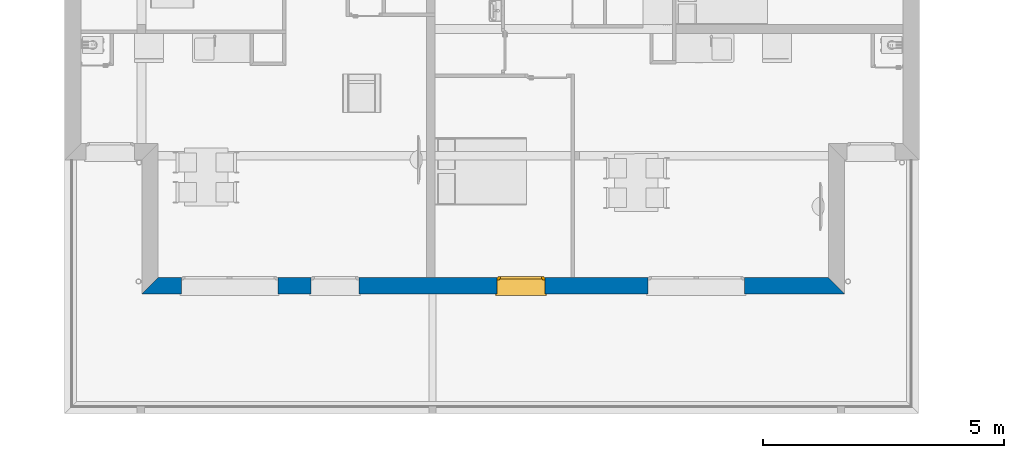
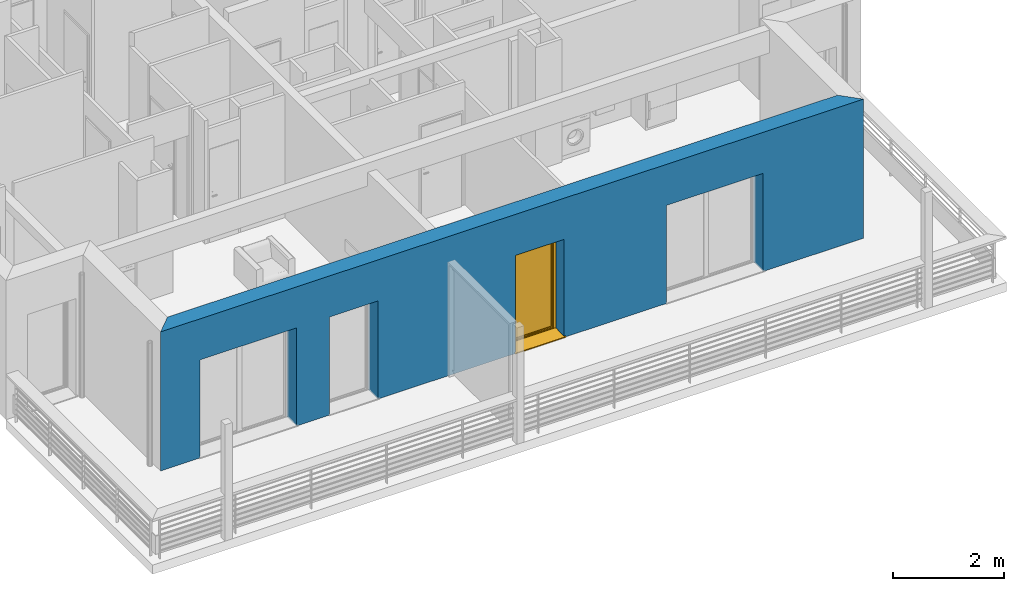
# One storey, part 5 of 165: 1 wall, 1 window, 4 openings.
"""IFC2X3 building model written with IfcOpenShell, lengths in millimetres."""

import ifcopenshell
import ifcopenshell.guid

model = None  # the IFC model being written
_history = None  # IfcOwnerHistory: only IFC2X3 demands one
_inside = {}  # id of a spatial element -> (the spatial element, [elements in it])
_under = {}  # id of a project, library or spatial element -> (it, [spatial elements below it])
_declared = {}  # id of a project -> (the project, [libraries it declares])
_typed = {}  # id of a type object -> (the type object, [elements of that type])
_made_of = {}  # id of a material, layer set ... -> (it, [elements and type objects made of it])


def new_model(schema):
    """Start an empty IFC model of exactly this schema.

    Asked for "IFC4X3", IfcOpenShell would pick the latest addendum, in which some entities
    have other attributes; the version numbers below select the first issue.
    IFC2X3 requires an IfcOwnerHistory on every rooted entity: one is made here for all.
    """
    global model, _history
    if schema == "IFC4X3":
        model = ifcopenshell.file(schema_version=(4, 3, 0, 0))
    else:
        model = ifcopenshell.file(schema=schema)
    _inside.clear()
    _under.clear()
    _declared.clear()
    _typed.clear()
    _made_of.clear()
    _history = None
    if model.schema == "IFC2X3":
        org = make("IfcOrganization", Name="unknown")
        user = make(
            "IfcPersonAndOrganization",
            ThePerson=make("IfcPerson", FamilyName="unknown"),
            TheOrganization=org,
        )
        app = make(
            "IfcApplication",
            ApplicationDeveloper=org,
            Version="unknown",
            ApplicationFullName="unknown",
            ApplicationIdentifier="unknown",
        )
        _history = make(
            "IfcOwnerHistory",
            OwningUser=user,
            OwningApplication=app,
            ChangeAction="ADDED",
            CreationDate=0,
        )
    return model


def make(cls, **values):
    """One entity of the class cls with the attributes given. An attribute that is None is left unset."""
    return model.create_entity(
        cls, **{name: value for name, value in values.items() if value is not None}
    )


def entity(cls, *values):
    """Any entity or typed value of the class cls, its attributes in the order of the schema. None: left unset."""
    e = model.create_entity(cls)
    for i, value in enumerate(values):
        if value is not None:
            e[i] = value
    return e


def rooted(cls, **values):
    """An entity with a GlobalId (a new one), such as an element, a storey or a relation."""
    return make(cls, GlobalId=ifcopenshell.guid.new(), OwnerHistory=_history, **values)


def si_unit(unit_type, name, prefix=None):
    """IfcSIUnit, for example si_unit("LENGTHUNIT", "METRE", prefix="MILLI")."""
    return make("IfcSIUnit", UnitType=unit_type, Prefix=prefix, Name=name)


def converted_unit(unit_type, name, factor, base, dimensions=None, offset=None):
    """IfcConversionBasedUnit, such as the inch: factor (a typed value) times the base unit."""
    return make(
        "IfcConversionBasedUnit"
        if offset is None
        else "IfcConversionBasedUnitWithOffset",
        ConversionOffset=offset,
        Dimensions=None
        if dimensions is None
        else entity("IfcDimensionalExponents", *dimensions),
        UnitType=unit_type,
        Name=name,
        ConversionFactor=make(
            "IfcMeasureWithUnit", ValueComponent=factor, UnitComponent=base
        ),
    )


def derived_unit(unit_type, elements):
    """IfcDerivedUnit: a product of units, each with its exponent."""
    return make(
        "IfcDerivedUnit",
        Elements=[
            make("IfcDerivedUnitElement", Unit=unit, Exponent=power)
            for unit, power in elements
        ],
        UnitType=unit_type,
    )


def money_unit(currency):
    """IfcMonetaryUnit."""
    return make("IfcMonetaryUnit", Currency=currency)


def assignment(units):
    """IfcUnitAssignment: the units of a project."""
    return None if units is None else make("IfcUnitAssignment", Units=units)


def point(xyz):
    """IfcCartesianPoint."""
    return None if xyz is None else make("IfcCartesianPoint", Coordinates=xyz)


def direction(xyz):
    """IfcDirection."""
    return None if xyz is None else make("IfcDirection", DirectionRatios=xyz)


def frame(location, z_axis=None, x_axis=None):
    """IfcAxis2Placement3D, a coordinate frame: its origin and axes. An axis left out is left unset."""
    return make(
        "IfcAxis2Placement3D",
        Location=point(location),
        Axis=direction(z_axis),
        RefDirection=direction(x_axis),
    )


def origin_with_axes():
    """The frame at (0, 0, 0) with the z axis (0, 0, 1) and the x axis (1, 0, 0) written out."""
    return frame((0.0, 0.0, 0.0), z_axis=(0.0, 0.0, 1.0), x_axis=(1.0, 0.0, 0.0))


def place(relative_to, where):
    """IfcLocalPlacement: puts the frame where relative to a parent placement (None: the world)."""
    return make(
        "IfcLocalPlacement", PlacementRelTo=relative_to, RelativePlacement=where
    )


def context(
    kind, dimensions, precision=None, world=None, true_north=None, identifier=None
):
    """IfcGeometricRepresentationContext, for example the 3D "Model" context."""
    return make(
        "IfcGeometricRepresentationContext",
        ContextIdentifier=identifier,
        ContextType=kind,
        CoordinateSpaceDimension=dimensions,
        Precision=precision,
        WorldCoordinateSystem=world,
        TrueNorth=true_north,
    )


def subcontext(parent, identifier, kind, view, scale=None):
    """IfcGeometricRepresentationSubContext, for example "Body" below "Model"."""
    return make(
        "IfcGeometricRepresentationSubContext",
        ContextIdentifier=identifier,
        ContextType=kind,
        ParentContext=parent,
        TargetScale=scale,
        TargetView=view,
    )


def project(units=None, contexts=None):
    """IfcProject with its units and contexts."""
    return rooted(
        "IfcProject",
        Name="project",
        RepresentationContexts=contexts,
        UnitsInContext=assignment(units),
    )


def spatial(cls, under=None, at=None, **own):
    """A site, building, storey or space (cls), placed at a placement, below another one or the project."""
    s = rooted(cls, ObjectPlacement=at, **own)
    if under is not None:
        _under.setdefault(under.id(), (under, []))[1].append(s)
    return s


def polyline(points):
    """IfcPolyline through the points."""
    return make("IfcPolyline", Points=[point(p) for p in points])


def outline(outer, holes=None, kind="AREA"):
    """IfcArbitraryClosedProfileDef: a profile drawn as a closed curve; with holes, ...WithVoids."""
    if holes is None:
        return make("IfcArbitraryClosedProfileDef", ProfileType=kind, OuterCurve=outer)
    return make(
        "IfcArbitraryProfileDefWithVoids",
        ProfileType=kind,
        OuterCurve=outer,
        InnerCurves=holes,
    )


def extrude(swept, where, along, depth):
    """IfcExtrudedAreaSolid: the profile swept, set in the frame where, extruded along a direction by depth."""
    return make(
        "IfcExtrudedAreaSolid",
        SweptArea=swept,
        Position=where,
        ExtrudedDirection=direction(along),
        Depth=depth,
    )


def faces_of(points, faces, orient=None, outer=None):
    """IfcFace entities. A face is a list of loops; a loop is a list of indices into points, from 0.

    orient and outer hold one flag for each loop. By default every Orientation is true, the
    first loop of a face is its IfcFaceOuterBound and the others are IfcFaceBound.
    """
    made = []
    for i, loops in enumerate(faces):
        bounds = []
        for j, loop in enumerate(loops):
            is_outer = j == 0 if outer is None else outer[i][j]
            bounds.append(
                make(
                    "IfcFaceOuterBound" if is_outer else "IfcFaceBound",
                    Bound=make("IfcPolyLoop", Polygon=[points[k] for k in loop]),
                    Orientation=True if orient is None else orient[i][j],
                )
            )
        made.append(make("IfcFace", Bounds=bounds))
    return made


def open_shell(faces, orient=None, outer=None):
    """The faces of one IfcOpenShell. surface_model builds it on its shared points."""
    return ("IfcOpenShell", faces, orient, outer)


def faceted_brep(points, faces, orient=None, outer=None, voids=None):
    """IfcFacetedBrep: a solid bounded by flat faces; with voids (closed shells), ...WithVoids."""
    shared = [point(p) for p in points]
    hull = make("IfcClosedShell", CfsFaces=faces_of(shared, faces, orient, outer))
    if voids is None:
        return make("IfcFacetedBrep", Outer=hull)
    return make(
        "IfcFacetedBrepWithVoids",
        Outer=hull,
        Voids=[
            make(cls, CfsFaces=faces_of(shared, fs, o, b)) for cls, fs, o, b in voids
        ],
    )


def surface_model(cls, points, shells):
    """IfcFaceBasedSurfaceModel or IfcShellBasedSurfaceModel (cls): surfaces that need not close."""
    shared = [point(p) for p in points]
    made = [make(c, CfsFaces=faces_of(shared, fs, o, b)) for c, fs, o, b in shells]
    if cls == "IfcFaceBasedSurfaceModel":
        return make(cls, FbsmFaces=made)
    return make(cls, SbsmBoundary=made)


def shape(context_of_items, identifier, shape_type, items):
    """IfcShapeRepresentation: the items that make up one representation, for example the "Body"."""
    return make(
        "IfcShapeRepresentation",
        ContextOfItems=context_of_items,
        RepresentationIdentifier=identifier,
        RepresentationType=shape_type,
        Items=items,
    )


def source(mapping_origin, context_of_items, identifier, shape_type, items):
    """IfcRepresentationMap: a shape defined once, which mapped items show again and again."""
    return make(
        "IfcRepresentationMap",
        MappingOrigin=mapping_origin,
        MappedRepresentation=shape(context_of_items, identifier, shape_type, items),
    )


def transform(
    local_origin,
    x_axis=None,
    y_axis=None,
    z_axis=None,
    scale=None,
    scale2=None,
    scale3=None,
    uniform=True,
):
    """IfcCartesianTransformationOperator3D, or its non-uniform kind. x_axis, y_axis, z_axis: its Axis1, 2, 3."""
    if uniform:
        return make(
            "IfcCartesianTransformationOperator3D",
            Axis1=direction(x_axis),
            Axis2=direction(y_axis),
            LocalOrigin=point(local_origin),
            Scale=scale,
            Axis3=direction(z_axis),
        )
    return make(
        "IfcCartesianTransformationOperator3DnonUniform",
        Axis1=direction(x_axis),
        Axis2=direction(y_axis),
        LocalOrigin=point(local_origin),
        Scale=scale,
        Axis3=direction(z_axis),
        Scale2=scale2,
        Scale3=scale3,
    )


def mapped(mapping_source, mapping_target):
    """IfcMappedItem: shows the shape of a source again, moved by a transform."""
    return make(
        "IfcMappedItem", MappingSource=mapping_source, MappingTarget=mapping_target
    )


def material(Name=None, Category=None):
    """IfcMaterial."""
    return make("IfcMaterial", Name=Name, Category=Category)


def layer(
    of_material, thickness, ventilated=None, Name=None, Category=None, Priority=None
):
    """IfcMaterialLayer: one layer of a wall or slab, of a material (None: an air gap)."""
    return make(
        "IfcMaterialLayer",
        Material=of_material,
        LayerThickness=thickness,
        IsVentilated=ventilated,
        Name=Name,
        Category=Category,
        Priority=Priority,
    )


def layer_set(layers, Name=None):
    """IfcMaterialLayerSet."""
    return make("IfcMaterialLayerSet", MaterialLayers=layers, LayerSetName=Name)


def layer_usage(for_layer_set, set_direction, sense, offset, extent=None):
    """IfcMaterialLayerSetUsage: how a layer set lies in its element."""
    return make(
        "IfcMaterialLayerSetUsage",
        ForLayerSet=for_layer_set,
        LayerSetDirection=set_direction,
        DirectionSense=sense,
        OffsetFromReferenceLine=offset,
        ReferenceExtent=extent,
    )


def made_of(thing, what):
    """Note that an element or type object is made of a material, layer set ...; save() writes the relation."""
    if what is not None:
        _made_of.setdefault(what.id(), (what, []))[1].append(thing)
    return thing


def type_object(cls, material=None, **own):
    """A type object (cls), such as IfcWallType, which elements share."""
    return made_of(rooted(cls, **own), material)


def element(
    cls,
    number,
    at=None,
    inside=None,
    cuts=None,
    type_object=None,
    material=None,
    context=None,
    identifier="Body",
    shape_type=None,
    held_by="IfcProductDefinitionShape",
    body=None,
    shapes=None,
    **own,
):
    """One element of the class cls, such as IfcWall. Its Tag is "e" and its number.

    at: its placement. inside: the storey or other place that contains it. cuts: it is an
    opening in that element (IfcRelVoidsElement). A single representation is given by context,
    identifier, shape_type and body (its items); several are given by shapes. held_by: the class
    of the entity that holds the representations. save() writes the other relations.
    """
    e = rooted(cls, Tag="e%d" % number, ObjectPlacement=at, **own)
    if body is not None:
        shapes = [shape(context, identifier, shape_type, body)]
    if shapes is not None:
        e.Representation = make(held_by, Representations=shapes)
    if inside is not None:
        _inside.setdefault(inside.id(), (inside, []))[1].append(e)
    if cuts is not None:
        rooted(
            "IfcRelVoidsElement", RelatingBuildingElement=cuts, RelatedOpeningElement=e
        )
    if type_object is not None:
        _typed.setdefault(type_object.id(), (type_object, []))[1].append(e)
    return made_of(e, material)


def fill(opening, filler):
    """IfcRelFillsElement: the door or window that sits in an opening."""
    return rooted(
        "IfcRelFillsElement",
        RelatingOpeningElement=opening,
        RelatedBuildingElement=filler,
    )


def aggregate(whole, parts):
    """IfcRelAggregates: a whole, such as a stair, and the parts it consists of."""
    return rooted("IfcRelAggregates", RelatingObject=whole, RelatedObjects=parts)


def save(model, path):
    """Write the relations noted so far, then the file.

    IfcRelAggregates (storeys below a building ...), IfcRelContainedInSpatialStructure (elements
    in a storey), IfcRelDefinesByType, IfcRelAssociatesMaterial and IfcRelDeclares: one each for
    every whole, place, type object, material and project.
    """
    for whole, parts in _under.values():
        aggregate(whole, parts)
    for where, things in _inside.values():
        rooted(
            "IfcRelContainedInSpatialStructure",
            RelatedElements=things,
            RelatingStructure=where,
        )
    for kind, things in _typed.values():
        rooted("IfcRelDefinesByType", RelatedObjects=things, RelatingType=kind)
    for what, things in _made_of.values():
        rooted("IfcRelAssociatesMaterial", RelatedObjects=things, RelatingMaterial=what)
    for by, libraries in _declared.values():
        rooted("IfcRelDeclares", RelatingContext=by, RelatedDefinitions=libraries)
    model.write(path)


model = new_model("IFC2X3")

# Units and contexts
model_context = context("Model", 3, precision=0.01, world=origin_with_axes(), true_north=direction((0.0, 1.0)))
body_context = subcontext(model_context, "Body", "Model", "MODEL_VIEW")
ifc_project = project(units=[si_unit("LENGTHUNIT", "METRE", prefix="MILLI"), si_unit("AREAUNIT", "SQUARE_METRE"), si_unit("VOLUMEUNIT", "CUBIC_METRE"), converted_unit("PLANEANGLEUNIT", "DEGREE", entity("IfcPlaneAngleMeasure", 0.0174532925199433), si_unit("PLANEANGLEUNIT", "RADIAN"), dimensions=[0, 0, 0, 0, 0, 0, 0]), money_unit("USD"), converted_unit("TIMEUNIT", "Year", entity("IfcTimeMeasure", 31557600.0), si_unit("TIMEUNIT", "SECOND"), dimensions=[0, 0, 1, 0, 0, 0, 0]), si_unit("MASSUNIT", "GRAM", prefix="KILO"), si_unit("THERMODYNAMICTEMPERATUREUNIT", "DEGREE_CELSIUS"), si_unit("LUMINOUSINTENSITYUNIT", "LUMEN"), si_unit("ENERGYUNIT", "JOULE", prefix="MEGA"), derived_unit("THERMALCONDUCTANCEUNIT", [(si_unit("POWERUNIT", "WATT"), 1), (si_unit("LENGTHUNIT", "METRE"), -1), (si_unit("THERMODYNAMICTEMPERATUREUNIT", "KELVIN"), -1)]), derived_unit("SPECIFICHEATCAPACITYUNIT", [(si_unit("ENERGYUNIT", "JOULE"), 1), (si_unit("MASSUNIT", "GRAM", prefix="KILO"), -1), (si_unit("THERMODYNAMICTEMPERATUREUNIT", "KELVIN"), -1)]), derived_unit("MASSDENSITYUNIT", [(si_unit("MASSUNIT", "GRAM", prefix="KILO"), 1), (si_unit("VOLUMEUNIT", "CUBIC_METRE"), -1)])], contexts=[model_context])

# Site, building, storey
site_placement = place(None, origin_with_axes())
site = spatial("IfcSite", under=ifc_project, at=site_placement, Name="Site", CompositionType="ELEMENT")
building_placement = place(site_placement, origin_with_axes())
building = spatial("IfcBuilding", under=site, at=building_placement, Name="Bâtiment", CompositionType="ELEMENT")
storey_placement = place(building_placement, frame((0.0, 0.0, 8500.0), z_axis=(0.0, 0.0, 1.0), x_axis=(1.0, 0.0, 0.0)))
storey = spatial("IfcBuildingStorey", under=building, at=storey_placement, Name="Etage 2", CompositionType="ELEMENT", Elevation=8500.0)

# Wall, openings, window
ifc_material_1 = material(Name="Parpaing 312445824")
ifc_layer_1 = layer(ifc_material_1, 180.0, ventilated="UNKNOWN")
ifc_material_2 = material(Name="Isolant styromousse 301821074")
ifc_layer_2 = layer(ifc_material_2, 160.0, ventilated="UNKNOWN")
ifc_layer_set = layer_set([ifc_layer_1, ifc_layer_2], Name="isol int 18+16 0018356637")
ifc_layer_usage = layer_usage(ifc_layer_set, "AXIS2", "POSITIVE", 0.0)
wall_type = type_object("IfcWallType", Name="isol int 18+16 0018356637 340", PredefinedType="NOTDEFINED")
wall_placement = place(storey_placement, frame((2218234.233338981, -657818.3230769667, 0.0), z_axis=(0.0, 0.0, 1.0), x_axis=(1.0, 0.0, 0.0)))
wall = element("IfcWallStandardCase", 1, at=wall_placement, inside=storey, type_object=wall_type, material=ifc_layer_usage, Name="Mur-142", context=body_context, shape_type="SweptSolid", body=[
    extrude(outline(polyline([(-1.13686837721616e-10, 0.0), (14572.4247596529, 0.0), (14232.42475965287, 340.0000000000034), (339.9999999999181, 340.0000000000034), (-1.13686837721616e-10, 0.0)])), origin_with_axes(), (0.0, 0.0, 1.0), 3050.0),
])
opening_1_placement = place(wall_placement, frame((11494.55984898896, 0.0, 0.0), z_axis=(0.0, 0.0, 1.0), x_axis=(1.0, 0.0, 0.0)))
element("IfcOpeningElement", 2, at=opening_1_placement, cuts=wall, Name="Fen-207", context=body_context, shape_type="Brep", body=[
    faceted_brep([(-1000.0, 341.0000000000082, 2150.0), (1000.0, 341.0000000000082, 2150.0), (1000.0, 341.0000000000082, 0.0), (-1000.0, 341.0000000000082, 0.0), (-1000.0, 530.0000000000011, 2150.0), (1000.0, 530.0000000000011, 2150.0), (1000.0, 290.0000000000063, 2150.0), (1000.0, 290.0000000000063, 0.0), (1000.0, -1.000000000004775, 0.0), (-1000.0, -1.000000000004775, 0.0), (-1000.0, 290.0000000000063, 0.0), (-1000.0, 290.0000000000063, 2150.0), (-1000.0, 280.0000000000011, 2150.0), (-1000.0, 280.0000000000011, 2400.0), (-1000.0, 530.0000000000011, 2400.0), (1000.0, 530.0000000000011, 2400.0), (1000.0, 280.0000000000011, 2400.0), (1000.0, 280.0000000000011, 2150.0), (1000.0, -1.000000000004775, 2150.0), (-1000.0, -1.000000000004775, 2150.0)], [[[0, 1, 2, 3]], [[1, 0, 4, 5]], [[1, 6, 7, 2]], [[7, 8, 9, 10, 3, 2]], [[11, 0, 3, 10]], [[0, 11, 12, 13, 14, 4]], [[15, 5, 4, 14]], [[6, 1, 5, 15, 16, 17]], [[6, 17, 18, 8, 7]], [[19, 9, 8, 18]], [[12, 11, 10, 9, 19]], [[12, 17, 16, 13]], [[16, 15, 14, 13]], [[17, 12, 19, 18]]]),
])
opening_2_placement = place(wall_placement, frame((1819.125619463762, 0.0, 0.0), z_axis=(0.0, 0.0, 1.0), x_axis=(1.0, 0.0, 0.0)))
element("IfcOpeningElement", 3, at=opening_2_placement, cuts=wall, Name="Fen-207", context=body_context, shape_type="Brep", body=[
    faceted_brep([(-1000.0, 341.0000000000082, 2149.999999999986), (1000.0, 341.0000000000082, 2149.999999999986), (1000.0, 341.0000000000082, 0.0), (-1000.0, 341.0000000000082, 0.0), (-1000.0, 530.0000000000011, 2149.999999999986), (1000.0, 530.0000000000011, 2149.999999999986), (1000.0, 290.0000000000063, 2149.999999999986), (1000.0, 290.0000000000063, 0.0), (1000.0, -1.000000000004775, 0.0), (-1000.0, -1.000000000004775, 0.0), (-1000.0, 290.0000000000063, 0.0), (-1000.0, 290.0000000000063, 2149.999999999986), (-1000.0, 280.0000000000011, 2149.999999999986), (-1000.0, 280.0000000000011, 2399.999999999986), (-1000.0, 530.0000000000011, 2399.999999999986), (1000.0, 530.0000000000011, 2399.999999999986), (1000.0, 280.0000000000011, 2399.999999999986), (1000.0, 280.0000000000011, 2149.999999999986), (1000.0, -1.000000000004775, 2149.999999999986), (-1000.0, -1.000000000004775, 2149.999999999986)], [[[0, 1, 2, 3]], [[1, 0, 4, 5]], [[1, 6, 7, 2]], [[7, 8, 9, 10, 3, 2]], [[11, 0, 3, 10]], [[0, 11, 12, 13, 14, 4]], [[4, 14, 15, 5]], [[6, 1, 5, 15, 16, 17]], [[6, 17, 18, 8, 7]], [[19, 9, 8, 18]], [[12, 11, 10, 9, 19]], [[12, 17, 16, 13]], [[14, 13, 16, 15]], [[17, 12, 19, 18]]]),
])
opening_3_placement = place(wall_placement, frame((7861.100702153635, 0.0, 0.0), z_axis=(0.0, 0.0, 1.0), x_axis=(1.0, 0.0, 0.0)))
opening_3 = element("IfcOpeningElement", 4, at=opening_3_placement, cuts=wall, Name="Fen-207", context=body_context, shape_type="Brep", body=[
    faceted_brep([(-500.0, 341.0000000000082, 2150.0), (500.0, 341.0000000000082, 2150.0), (500.0, 341.0000000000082, 0.0), (-500.0, 341.0000000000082, 0.0), (-500.0, 530.0000000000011, 2150.0), (500.0, 530.0000000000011, 2150.0), (500.0, 290.0000000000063, 2150.0), (500.0, 290.0000000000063, 0.0), (500.0, -1.000000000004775, 0.0), (-500.0, -1.000000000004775, 0.0), (-500.0, 290.0000000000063, 0.0), (-500.0, 290.0000000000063, 2150.0), (-500.0, 280.0000000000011, 2150.0), (-500.0, 280.0000000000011, 2400.0), (-500.0, 530.0000000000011, 2400.0), (500.0, 530.0000000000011, 2400.0), (500.0, 280.0000000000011, 2400.0), (500.0, 280.0000000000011, 2150.0), (500.0, -1.000000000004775, 2150.0), (-500.0, -1.000000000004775, 2150.0)], [[[0, 1, 2, 3]], [[1, 0, 4, 5]], [[1, 6, 7, 2]], [[7, 8, 9, 10, 3, 2]], [[11, 0, 3, 10]], [[0, 11, 12, 13, 14, 4]], [[4, 14, 15, 5]], [[6, 1, 5, 15, 16, 17]], [[6, 17, 18, 8, 7]], [[19, 9, 8, 18]], [[12, 11, 10, 9, 19]], [[12, 17, 16, 13]], [[14, 13, 16, 15]], [[17, 12, 19, 18]]]),
])
opening_4_placement = place(wall_placement, frame((4005.859536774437, 0.0, 0.0), z_axis=(0.0, 0.0, 1.0), x_axis=(1.0, 0.0, 0.0)))
element("IfcOpeningElement", 5, at=opening_4_placement, cuts=wall, Name="Fen-208", context=body_context, shape_type="Brep", body=[
    faceted_brep([(-500.0, 341.0000000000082, 2150.000000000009), (500.0, 341.0000000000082, 2150.000000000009), (500.0, 341.0000000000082, 0.0), (-500.0, 341.0000000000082, 0.0), (-500.0, 530.0000000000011, 2150.000000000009), (500.0, 530.0000000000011, 2150.000000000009), (500.0, 290.0000000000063, 2150.000000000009), (500.0, 290.0000000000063, 0.0), (500.0, -1.000000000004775, 0.0), (-500.0, -1.000000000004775, 0.0), (-500.0, 290.0000000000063, 0.0), (-500.0, 290.0000000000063, 2150.000000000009), (-500.0, 280.0000000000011, 2150.000000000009), (-500.0, 280.0000000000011, 2400.000000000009), (-500.0, 530.0000000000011, 2400.000000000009), (500.0, 530.0000000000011, 2400.000000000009), (500.0, 280.0000000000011, 2400.000000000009), (500.0, 280.0000000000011, 2150.000000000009), (500.0, -1.000000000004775, 2150.000000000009), (-500.0, -1.000000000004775, 2150.000000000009)], [[[0, 1, 2, 3]], [[1, 0, 4, 5]], [[1, 6, 7, 2]], [[7, 8, 9, 10, 3, 2]], [[11, 0, 3, 10]], [[0, 11, 12, 13, 14, 4]], [[4, 14, 15, 5]], [[6, 1, 5, 15, 16, 17]], [[6, 17, 18, 8, 7]], [[19, 9, 8, 18]], [[12, 11, 10, 9, 19]], [[12, 17, 16, 13]], [[14, 13, 16, 15]], [[17, 12, 19, 18]]]),
])
window_style = type_object("IfcWindowStyle", Name="Fenêtre 27", ConstructionType="NOTDEFINED", OperationType="SINGLE_PANEL", ParameterTakesPrecedence=False, Sizeable=False)
shared_shape = source(origin_with_axes(), body_context, "Body", "SurfaceModel", [
    surface_model("IfcShellBasedSurfaceModel", [(-500.0, -51.00000000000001, 40.00000000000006), (500.0, -51.00000000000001, 40.0), (500.0, -51.00000000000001, 50.0), (-500.0, -51.00000000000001, 50.00000000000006), (-530.0, -369.9999999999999, 28.96551724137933), (530.0, -369.9999999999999, 28.96551724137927), (530.0, -339.9999999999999, 30.00324289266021), (500.0, -339.9999999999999, 30.00324289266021), (-500.0, -339.9999999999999, 30.00324289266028), (-530.0, -339.9999999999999, 30.00324289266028), (-530.0, -369.9999999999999, 8.96551724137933), (530.0, -369.9999999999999, 8.965517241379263), (-530.0, -359.9999999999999, 18.96551724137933), (530.0, -359.9999999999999, 18.96551724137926)], [open_shell([[[0, 1, 2, 3]], [[4, 5, 6, 7, 1, 0, 8, 9]], [[10, 11, 5, 4]], [[12, 13, 11, 10]]])]),
    faceted_brep([(500.0, -59.99999999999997, 2400.0), (500.0, 190.0, 2400.0), (497.0, 190.0, 2400.0), (497.0, -59.99999999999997, 2400.0), (500.0, -59.99999999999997, 2150.0), (500.0, 190.0, 2150.0), (497.0, 190.0, 2150.0), (497.0, -59.99999999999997, 2150.0)], [[[0, 1, 2, 3]], [[0, 4, 5, 1]], [[1, 5, 6, 2]], [[3, 2, 6, 7]], [[4, 0, 3, 7]], [[5, 4, 7, 6]]]),
    faceted_brep([(-497.0, -59.99999999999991, 2400.0), (-497.0, 190.0000000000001, 2400.0), (-500.0, 190.0000000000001, 2400.0), (-500.0, -59.99999999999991, 2400.0), (-497.0, -59.99999999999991, 2150.0), (-497.0, 190.0000000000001, 2150.0), (-500.0, 190.0000000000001, 2150.0), (-500.0, -59.99999999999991, 2150.0)], [[[0, 1, 2, 3]], [[0, 4, 5, 1]], [[1, 5, 6, 2]], [[3, 2, 6, 7]], [[4, 0, 3, 7]], [[5, 4, 7, 6]]]),
    faceted_brep([(497.0, -60.0, 2150.0), (497.0, -60.0, 2400.0), (-497.0, -59.99999999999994, 2400.0), (-497.0, -59.99999999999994, 2150.0), (497.0, -56.99999999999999, 2150.0), (497.0, -56.99999999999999, 2397.0), (497.0, 187.0, 2397.0), (497.0, 187.0, 2153.0), (497.0, -37.99999999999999, 2153.0), (497.0, -37.99999999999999, 2150.0), (497.0, 190.0, 2150.0), (497.0, 190.0, 2400.0), (-497.0, 190.0000000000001, 2400.0), (-497.0, 190.0000000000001, 2150.0), (-497.0, -37.99999999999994, 2150.0), (-497.0, -37.99999999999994, 2153.0), (-497.0, 187.0000000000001, 2153.0), (-497.0, 187.0000000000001, 2397.0), (-497.0, -56.99999999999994, 2397.0), (-497.0, -56.99999999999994, 2150.0)], [[[0, 1, 2, 3]], [[0, 4, 5, 6, 7, 8, 9, 10, 11, 1]], [[1, 11, 12, 2]], [[3, 2, 12, 13, 14, 15, 16, 17, 18, 19]], [[4, 0, 3, 19]], [[5, 4, 19, 18]], [[6, 5, 18, 17]], [[7, 6, 17, 16]], [[8, 7, 16, 15]], [[9, 8, 15, 14]], [[10, 9, 14, 13]], [[11, 10, 13, 12]]]),
    faceted_brep([(494.0, -40.37442957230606, 2256.419644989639), (494.0, -35.54711042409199, 2238.403844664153), (494.0, -27.66471820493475, 2221.5), (494.0, -16.9667554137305, 2206.22172576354), (494.0, -3.778274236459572, 2193.033244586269), (494.0, 11.50000000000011, 2182.335281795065), (494.0, 28.40384466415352, 2174.452889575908), (494.0, 46.4196449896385, 2169.625570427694), (494.0, 65.00000000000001, 2168.0), (494.0, 83.58035501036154, 2169.625570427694), (494.0, 101.5961553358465, 2174.452889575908), (494.0, 118.4999999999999, 2182.335281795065), (494.0, 133.7782742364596, 2193.033244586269), (494.0, 146.9667554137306, 2206.22172576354), (494.0, 157.6647182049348, 2221.5), (494.0, 165.5471104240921, 2238.403844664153), (494.0, 170.3744295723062, 2256.419644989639), (494.0, 171.9999999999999, 2275.0), (494.0, 170.3744295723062, 2293.580355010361), (494.0, 165.5471104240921, 2311.596155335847), (494.0, 157.6647182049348, 2328.5), (494.0, 146.9667554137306, 2343.77827423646), (494.0, 133.7782742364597, 2356.96675541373), (494.0, 118.5, 2367.664718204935), (494.0, 101.5961553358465, 2375.547110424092), (494.0, 83.58035501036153, 2380.374429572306), (494.0, 64.99999999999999, 2382.0), (494.0, 46.41964498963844, 2380.374429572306), (494.0, 28.40384466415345, 2375.547110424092), (494.0, 11.5, 2367.664718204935), (494.0, -3.778274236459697, 2356.96675541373), (494.0, -16.96675541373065, 2343.77827423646), (494.0, -27.66471820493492, 2328.5), (494.0, -35.54711042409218, 2311.596155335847), (494.0, -40.37442957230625, 2293.580355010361), (494.0, -41.99999999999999, 2275.0), (-494.0, -40.374429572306, 2256.419644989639), (-494.0, -35.54711042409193, 2238.403844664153), (-494.0, -27.6647182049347, 2221.5), (-494.0, -16.96675541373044, 2206.22172576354), (-494.0, -3.778274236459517, 2193.033244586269), (-494.0, 11.50000000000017, 2182.335281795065), (-494.0, 28.40384466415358, 2174.452889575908), (-494.0, 46.41964498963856, 2169.625570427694), (-494.0, 65.00000000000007, 2168.0), (-494.0, 83.5803550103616, 2169.625570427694), (-494.0, 101.5961553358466, 2174.452889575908), (-494.0, 118.5, 2182.335281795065), (-494.0, 133.7782742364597, 2193.033244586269), (-494.0, 146.9667554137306, 2206.22172576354), (-494.0, 157.6647182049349, 2221.5), (-494.0, 165.5471104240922, 2238.403844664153), (-494.0, 170.3744295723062, 2256.419644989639), (-494.0, 172.0, 2275.0), (-494.0, 170.3744295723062, 2293.580355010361), (-494.0, 165.5471104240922, 2311.596155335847), (-494.0, 157.6647182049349, 2328.5), (-494.0, 146.9667554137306, 2343.77827423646), (-494.0, 133.7782742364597, 2356.96675541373), (-494.0, 118.5, 2367.664718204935), (-494.0, 101.5961553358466, 2375.547110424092), (-494.0, 83.58035501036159, 2380.374429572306), (-494.0, 65.00000000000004, 2382.0), (-494.0, 46.41964498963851, 2380.374429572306), (-494.0, 28.40384466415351, 2375.547110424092), (-494.0, 11.50000000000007, 2367.664718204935), (-494.0, -3.778274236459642, 2356.96675541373), (-494.0, -16.96675541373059, 2343.77827423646), (-494.0, -27.66471820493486, 2328.5), (-494.0, -35.54711042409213, 2311.596155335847), (-494.0, -40.37442957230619, 2293.580355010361), (-494.0, -41.99999999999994, 2275.0)], [[[0, 1, 2, 3, 4, 5, 6, 7, 8, 9, 10, 11, 12, 13, 14, 15, 16, 17, 18, 19, 20, 21, 22, 23, 24, 25, 26, 27, 28, 29, 30, 31, 32, 33, 34, 35]], [[1, 0, 36, 37]], [[2, 1, 37, 38]], [[3, 2, 38, 39]], [[4, 3, 39, 40]], [[5, 4, 40, 41]], [[6, 5, 41, 42]], [[7, 6, 42, 43]], [[8, 7, 43, 44]], [[9, 8, 44, 45]], [[10, 9, 45, 46]], [[11, 10, 46, 47]], [[12, 11, 47, 48]], [[13, 12, 48, 49]], [[14, 13, 49, 50]], [[15, 14, 50, 51]], [[16, 15, 51, 52]], [[17, 16, 52, 53]], [[18, 17, 53, 54]], [[19, 18, 54, 55]], [[20, 19, 55, 56]], [[21, 20, 56, 57]], [[22, 21, 57, 58]], [[23, 22, 58, 59]], [[24, 23, 59, 60]], [[25, 24, 60, 61]], [[26, 25, 61, 62]], [[27, 26, 62, 63]], [[28, 27, 63, 64]], [[29, 28, 64, 65]], [[30, 29, 65, 66]], [[31, 30, 66, 67]], [[32, 31, 67, 68]], [[33, 32, 68, 69]], [[34, 33, 69, 70]], [[35, 34, 70, 71]], [[0, 35, 71, 36]], [[36, 71, 70, 69, 68, 67, 66, 65, 64, 63, 62, 61, 60, 59, 58, 57, 56, 55, 54, 53, 52, 51, 50, 49, 48, 47, 46, 45, 44, 43, 42, 41, 40, 39, 38, 37]]]),
    faceted_brep([(-500.0, -34.99999999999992, 30.0), (-500.0, -59.99999999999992, 30.0), (-500.0, -59.99999999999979, 2150.0), (-500.0, -34.99999999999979, 2150.0), (-475.0, -34.99999999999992, 30.0), (-475.0, -37.99999999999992, 30.0), (-497.0, -37.99999999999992, 30.0), (-497.0, -56.99999999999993, 30.0), (-475.0, -56.99999999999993, 30.0), (-475.0, -59.99999999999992, 30.0), (-475.0, -59.99999999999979, 2150.0), (-475.0, -56.99999999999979, 2150.0), (-497.0, -56.99999999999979, 2150.0), (-497.0, -37.99999999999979, 2150.0), (-475.0, -37.99999999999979, 2150.0), (-475.0, -34.99999999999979, 2150.0)], [[[0, 1, 2, 3]], [[0, 4, 5, 6, 7, 8, 9, 1]], [[1, 9, 10, 2]], [[3, 2, 10, 11, 12, 13, 14, 15]], [[4, 0, 3, 15]], [[5, 4, 15, 14]], [[6, 5, 14, 13]], [[7, 6, 13, 12]], [[8, 7, 12, 11]], [[9, 8, 11, 10]]]),
    faceted_brep([(500.0, -34.99999999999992, 30.0), (500.0, -34.99999999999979, 2150.0), (500.0, -59.99999999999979, 2150.0), (500.0, -59.99999999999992, 30.0), (475.0, -34.99999999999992, 30.0), (475.0, -34.99999999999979, 2150.0), (475.0, -37.99999999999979, 2150.0), (497.0, -37.99999999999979, 2150.0), (497.0, -56.99999999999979, 2150.0), (475.0, -56.99999999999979, 2150.0), (475.0, -59.99999999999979, 2150.0), (475.0, -59.99999999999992, 30.0), (475.0, -56.99999999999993, 30.0), (497.0, -56.99999999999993, 30.0), (497.0, -37.99999999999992, 30.0), (475.0, -37.99999999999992, 30.0)], [[[0, 1, 2, 3]], [[4, 5, 1, 0]], [[1, 5, 6, 7, 8, 9, 10, 2]], [[3, 2, 10, 11]], [[0, 3, 11, 12, 13, 14, 15, 4]], [[15, 6, 5, 4]], [[14, 7, 6, 15]], [[13, 8, 7, 14]], [[12, 9, 8, 13]], [[11, 10, 9, 12]]]),
    faceted_brep([(-497.0, -46.66666666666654, 2275.0), (497.0, -46.6666666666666, 2275.0), (497.0, -46.6666666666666, 2266.666666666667), (-497.0, -46.66666666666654, 2266.666666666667), (-497.0, -51.66666666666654, 2275.0), (497.0, -51.6666666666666, 2275.0), (497.0, -51.6666666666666, 2266.666666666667), (497.0, -49.99999999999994, 2250.0), (497.0, -44.99999999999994, 2250.0), (-497.0, -44.99999999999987, 2250.0), (-497.0, -49.99999999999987, 2250.0), (-497.0, -51.66666666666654, 2266.666666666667)], [[[0, 1, 2, 3]], [[1, 0, 4, 5]], [[1, 5, 6, 7, 8, 2]], [[2, 8, 9, 3]], [[4, 0, 3, 9, 10, 11]], [[6, 5, 4, 11]], [[7, 6, 11, 10]], [[8, 7, 10, 9]]]),
    faceted_brep([(497.0, -44.99999999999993, 2250.0), (497.0, -46.6666666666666, 2233.333333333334), (-497.0, -46.66666666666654, 2233.333333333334), (-497.0, -44.99999999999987, 2250.0), (497.0, -49.99999999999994, 2250.0), (497.0, -51.6666666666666, 2233.333333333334), (497.0, -51.6666666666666, 2216.666666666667), (497.0, -49.99999999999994, 2200.0), (497.0, -44.99999999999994, 2200.0), (497.0, -46.6666666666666, 2216.666666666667), (-497.0, -46.66666666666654, 2216.666666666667), (-497.0, -44.99999999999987, 2200.0), (-497.0, -49.99999999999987, 2200.0), (-497.0, -51.66666666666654, 2216.666666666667), (-497.0, -51.66666666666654, 2233.333333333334), (-497.0, -49.99999999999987, 2250.0)], [[[0, 1, 2, 3]], [[0, 4, 5, 6, 7, 8, 9, 1]], [[1, 9, 10, 2]], [[3, 2, 10, 11, 12, 13, 14, 15]], [[4, 0, 3, 15]], [[5, 4, 15, 14]], [[6, 5, 14, 13]], [[7, 6, 13, 12]], [[8, 7, 12, 11]], [[9, 8, 11, 10]]]),
    faceted_brep([(497.0, -44.99999999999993, 2200.0), (497.0, -46.6666666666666, 2183.333333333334), (-497.0, -46.66666666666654, 2183.333333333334), (-497.0, -44.99999999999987, 2200.0), (497.0, -49.99999999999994, 2200.0), (497.0, -51.6666666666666, 2183.333333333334), (497.0, -51.6666666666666, 2166.666666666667), (497.0, -49.99999999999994, 2150.000000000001), (497.0, -44.99999999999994, 2150.000000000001), (497.0, -46.6666666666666, 2166.666666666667), (-497.0, -46.66666666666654, 2166.666666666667), (-497.0, -44.99999999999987, 2150.000000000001), (-497.0, -49.99999999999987, 2150.000000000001), (-497.0, -51.66666666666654, 2166.666666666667), (-497.0, -51.66666666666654, 2183.333333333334), (-497.0, -49.99999999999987, 2200.0)], [[[0, 1, 2, 3]], [[0, 4, 5, 6, 7, 8, 9, 1]], [[1, 9, 10, 2]], [[3, 2, 10, 11, 12, 13, 14, 15]], [[4, 0, 3, 15]], [[5, 4, 15, 14]], [[6, 5, 14, 13]], [[7, 6, 13, 12]], [[8, 7, 12, 11]], [[9, 8, 11, 10]]]),
    faceted_brep([(475.0000000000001, 0.0, 2100.0), (475.0000000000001, -25.00000000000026, 2100.0), (450.0, -25.00000000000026, 2100.0), (450.0, -50.00000000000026, 2100.0), (500.0, -50.00000000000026, 2100.0), (500.0, 0.0, 2100.0), (475.0000000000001, 0.0, 50.00000000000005), (475.0000000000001, -25.00000000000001, 50.00000000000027), (450.0, -25.00000000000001, 50.00000000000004), (450.0, -50.00000000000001, 50.00000000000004), (500.0, -50.00000000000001, 50.00000000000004), (500.0, 0.0, 50.00000000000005)], [[[0, 1, 2, 3, 4, 5]], [[1, 0, 6, 7]], [[8, 2, 1, 7]], [[2, 8, 9, 3]], [[4, 3, 9, 10]], [[5, 4, 10, 11]], [[6, 0, 5, 11]], [[7, 6, 11, 10, 9, 8]]]),
    faceted_brep([(-450.0, -25.00000000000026, 2100.0), (-475.0000000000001, -25.00000000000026, 2100.0), (-475.0000000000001, 0.0, 2100.0), (-500.0, 0.0, 2100.0), (-500.0, -50.00000000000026, 2100.0), (-450.0, -50.00000000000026, 2100.0), (-450.0, -25.00000000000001, 50.00000000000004), (-475.0000000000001, -25.00000000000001, 50.00000000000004), (-475.0000000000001, 0.0, 50.00000000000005), (-500.0, 0.0, 50.00000000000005), (-500.0, -50.00000000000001, 50.00000000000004), (-450.0, -50.00000000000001, 50.00000000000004)], [[[0, 1, 2, 3, 4, 5]], [[1, 0, 6, 7]], [[8, 2, 1, 7]], [[2, 8, 9, 3]], [[9, 10, 4, 3]], [[10, 11, 5, 4]], [[6, 0, 5, 11]], [[7, 6, 11, 10, 9, 8]]]),
    faceted_brep([(-450.0, -25.00000000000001, 50.00000000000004), (-475.0000000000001, -25.00000000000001, 50.00000000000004), (-475.0000000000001, 0.0, 50.00000000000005), (-500.0, 0.0, 50.00000000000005), (-500.0, -50.00000000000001, 50.00000000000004), (-450.0, -50.00000000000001, 50.00000000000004), (450.0, -25.00000000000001, 50.00000000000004), (475.0000000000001, -25.00000000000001, 50.00000000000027), (475.0000000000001, -25.0, 24.99999999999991), (-475.0000000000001, -25.0, 24.99999999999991), (-475.0000000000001, 0.0, 24.99999999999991), (475.0000000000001, 0.0, 24.99999999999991), (475.0000000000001, 0.0, 50.00000000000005), (500.0, 0.0, 50.00000000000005), (500.0, 0.0, 0.0), (-500.0, 0.0, 0.0), (-500.0, -50.0, 0.0), (500.0, -50.00000000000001, 50.00000000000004), (450.0, -50.00000000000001, 50.00000000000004), (500.0, -50.0, 0.0)], [[[0, 1, 2, 3, 4, 5]], [[1, 0, 6, 7, 8, 9]], [[10, 2, 1, 9]], [[11, 12, 13, 14, 15, 3, 2, 10]], [[15, 16, 4, 3]], [[17, 18, 5, 4, 16, 19]], [[6, 0, 5, 18]], [[7, 6, 18, 17, 13, 12]], [[7, 12, 11, 8]], [[11, 10, 9, 8]], [[13, 17, 19, 14]], [[14, 19, 16, 15]]]),
    faceted_brep([(475.0000000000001, 0.0, 2100.0), (475.0000000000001, 0.0, 2125.0), (-475.0000000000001, 0.0, 2125.0), (-475.0000000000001, 0.0, 2100.0), (-500.0, 0.0, 2100.0), (-500.0, 0.0, 2150.0), (500.0, 0.0, 2150.0), (500.0, 0.0, 2100.0), (475.0000000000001, -25.00000000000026, 2100.0), (475.0000000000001, -25.00000000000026, 2125.0), (-475.0000000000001, -25.00000000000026, 2125.0), (-475.0000000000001, -25.00000000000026, 2100.0), (-450.0, -25.00000000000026, 2100.0), (-450.0, -50.00000000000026, 2100.0), (-500.0, -50.00000000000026, 2100.0), (-500.0, -50.00000000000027, 2150.0), (500.0, -50.00000000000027, 2150.0), (500.0, -50.00000000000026, 2100.0), (450.0, -50.00000000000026, 2100.0), (450.0, -25.00000000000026, 2100.0)], [[[0, 1, 2, 3, 4, 5, 6, 7]], [[1, 0, 8, 9]], [[2, 1, 9, 10]], [[3, 2, 10, 11]], [[11, 12, 13, 14, 4, 3]], [[4, 14, 15, 5]], [[5, 15, 16, 6]], [[6, 16, 17, 7]], [[8, 0, 7, 17, 18, 19]], [[12, 11, 10, 9, 8, 19]], [[12, 19, 18, 13]], [[14, 13, 18, 17, 16, 15]]]),
    faceted_brep([(425.0000000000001, -25.00000000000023, 2075.0), (475.0000000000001, -25.00000000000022, 2075.0), (475.0000000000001, 24.99999999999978, 2075.0), (425.0000000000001, 24.99999999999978, 2075.0), (425.0000000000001, -24.99999999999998, 75.00000000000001), (475.0000000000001, -24.99999999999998, 75.00000000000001), (475.0000000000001, 25.00000000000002, 75.00000000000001), (425.0000000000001, 25.00000000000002, 75.00000000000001)], [[[0, 1, 2, 3]], [[0, 4, 5, 1]], [[1, 5, 6, 2]], [[3, 2, 6, 7]], [[4, 0, 3, 7]], [[5, 4, 7, 6]]]),
    faceted_brep([(-425.0000000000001, -25.00000000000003, 75.00000000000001), (-475.0000000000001, -25.00000000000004, 75.00000000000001), (-475.0000000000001, 24.99999999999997, 75.00000000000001), (-425.0000000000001, 24.99999999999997, 75.00000000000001), (-425.0000000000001, -25.00000000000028, 2075.0), (-475.0000000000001, -25.00000000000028, 2075.0), (-475.0000000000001, 24.99999999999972, 2075.0), (-425.0000000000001, 24.99999999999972, 2075.0)], [[[0, 1, 2, 3]], [[0, 4, 5, 1]], [[1, 5, 6, 2]], [[3, 2, 6, 7]], [[4, 0, 3, 7]], [[5, 4, 7, 6]]]),
    faceted_brep([(-475.0000000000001, -25.00000000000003, 25.0), (-475.0000000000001, -25.00000000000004, 75.00000000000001), (-475.0000000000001, 24.99999999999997, 75.00000000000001), (-475.0000000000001, 24.99999999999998, 25.00000000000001), (475.0000000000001, -24.99999999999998, 25.0), (475.0000000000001, -24.99999999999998, 75.00000000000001), (425.0000000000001, -24.99999999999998, 75.00000000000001), (-425.0000000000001, -25.00000000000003, 75.00000000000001), (-425.0000000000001, 24.99999999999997, 75.00000000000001), (425.0000000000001, 25.00000000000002, 75.00000000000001), (475.0000000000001, 25.00000000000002, 75.00000000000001), (475.0000000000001, 25.00000000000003, 25.00000000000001)], [[[0, 1, 2, 3]], [[0, 4, 5, 6, 7, 1]], [[1, 7, 8, 2]], [[3, 2, 8, 9, 10, 11]], [[4, 0, 3, 11]], [[5, 4, 11, 10]], [[6, 5, 10, 9]], [[7, 6, 9, 8]]]),
    faceted_brep([(475.0000000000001, -25.00000000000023, 2125.0), (475.0000000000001, -25.00000000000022, 2075.0), (475.0000000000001, 24.99999999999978, 2075.0), (475.0000000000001, 24.99999999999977, 2125.0), (-475.0000000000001, -25.00000000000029, 2125.0), (-475.0000000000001, -25.00000000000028, 2075.0), (-425.0000000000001, -25.00000000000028, 2075.0), (425.0000000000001, -25.00000000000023, 2075.0), (425.0000000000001, 24.99999999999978, 2075.0), (-425.0000000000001, 24.99999999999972, 2075.0), (-475.0000000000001, 24.99999999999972, 2075.0), (-475.0000000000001, 24.99999999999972, 2125.0)], [[[0, 1, 2, 3]], [[0, 4, 5, 6, 7, 1]], [[1, 7, 8, 2]], [[3, 2, 8, 9, 10, 11]], [[4, 0, 3, 11]], [[5, 4, 11, 10]], [[6, 5, 10, 9]], [[7, 6, 9, 8]]]),
    surface_model("IfcShellBasedSurfaceModel", [(425.0000000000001, -10.00000000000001, 75.00000000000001), (425.0000000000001, -10.00000000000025, 2075.0), (-425.0000000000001, -10.00000000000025, 2075.0), (-425.0000000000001, -10.00000000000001, 75.00000000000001)], [open_shell([[[0, 1, 2, 3]]])]),
    surface_model("IfcShellBasedSurfaceModel", [(425.0000000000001, 9.999999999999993, 75.00000000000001), (-425.0000000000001, 9.999999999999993, 75.00000000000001), (-425.0000000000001, 9.99999999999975, 2075.0), (425.0000000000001, 9.99999999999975, 2075.0)], [open_shell([[[0, 1, 2, 3]]])]),
])
window_placement = place(opening_3_placement, frame((-500.0, 0.0, 0.0), z_axis=(0.0, 0.0, 1.0), x_axis=(1.0, 0.0, 0.0)))
window = element("IfcWindow", 6, at=window_placement, inside=storey, type_object=window_style, Name="Fen-207", OverallHeight=2150.0, OverallWidth=1000.0, context=body_context, shape_type="MappedRepresentation", body=[
    mapped(shared_shape, transform((500.0, 340.0000000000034, 0.0))),
])
fill(opening_3, window)

save(model, "model.ifc")
